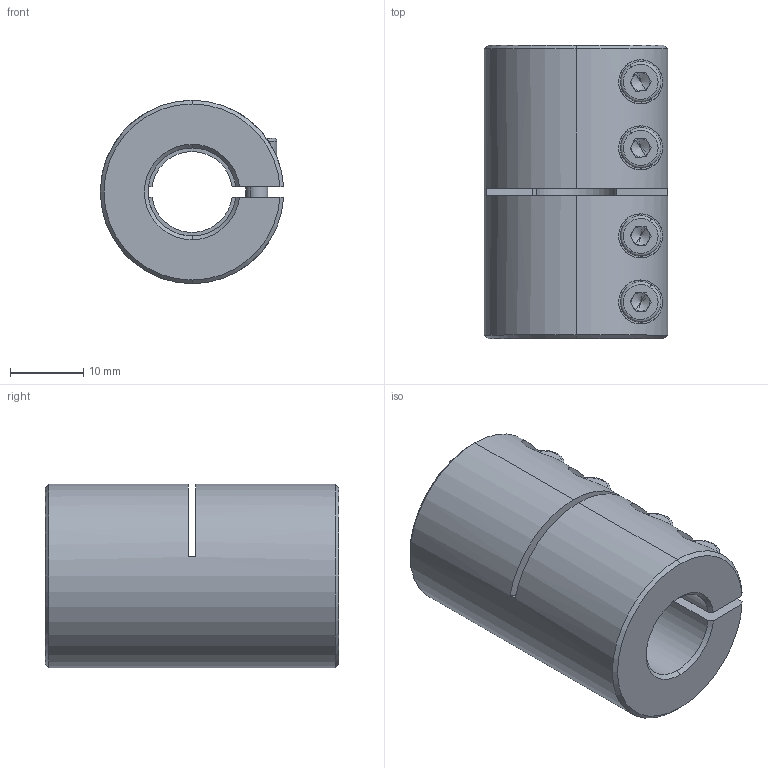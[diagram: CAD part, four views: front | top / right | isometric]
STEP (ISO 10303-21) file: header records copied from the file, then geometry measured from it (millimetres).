
FILE_DESCRIPTION (( 'STEP AP214' ), '1' );
FILE_NAME ('LL-B-D25L40-11-12½¨Ä£.STEP', '2022-07-21T05:21:24', ( '' ), ( '' ), 'SwSTEP 2.0', 'SolidWorks 2022', '' );
FILE_SCHEMA (( 'AUTOMOTIVE_DESIGN' ));
Length unit declared in the file: millimetre
Products named in the file (1): LL-B-D25L40-11-12膘耀
Bounding box: 24.98 x 40 x 25 mm (x, y, z)
Volume: 14546.8 mm3; surface area: 7127.2 mm2
Topology: 1 solids, 1 shells, 178 faces, 454 edges, 286 vertices
Faces by surface type: plane 85, cylinder 65, cone 20, torus 8
Entity records: 5830 total; most frequent: CARTESIAN_POINT 1438, DIRECTION 944, ORIENTED_EDGE 892, EDGE_CURVE 446, AXIS2_PLACEMENT_3D 364, VERTEX_POINT 286, VECTOR 216, LINE 216
